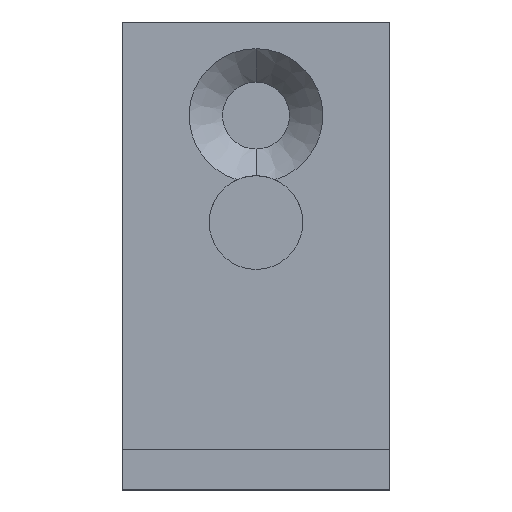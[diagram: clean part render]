
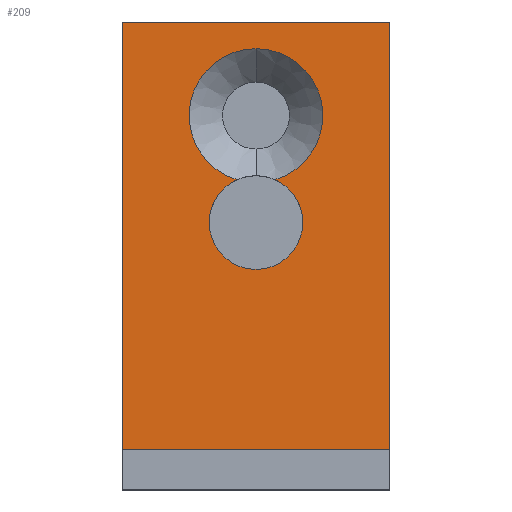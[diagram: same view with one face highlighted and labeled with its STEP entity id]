
A CAD part, front view. The second image highlights one B-rep face of the part: STEP entity #209.
In plain terms, the highlighted planar face has unit normal (0, -1, 0).
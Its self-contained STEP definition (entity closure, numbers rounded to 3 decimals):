
#179 = VERTEX_POINT( '', #495 );
#201 = EDGE_CURVE( '', #271, #239, #517, .T. );
#209 = ADVANCED_FACE( '', ( #525, #526 ), #527, .T. );
#211 = EDGE_CURVE( '', #245, #223, #529, .T. );
#221 = EDGE_CURVE( '', #259, #227, #539, .T. );
#223 = VERTEX_POINT( '', #541 );
#227 = VERTEX_POINT( '', #548 );
#239 = VERTEX_POINT( '', #561 );
#245 = VERTEX_POINT( '', #567 );
#259 = VERTEX_POINT( '', #583 );
#271 = VERTEX_POINT( '', #596 );
#343 = EDGE_CURVE( '', #223, #455, #681, .T. );
#371 = EDGE_CURVE( '', #455, #259, #710, .T. );
#379 = EDGE_CURVE( '', #413, #179, #719, .T. );
#401 = EDGE_CURVE( '', #413, #271, #746, .T. );
#405 = EDGE_CURVE( '', #227, #245, #751, .T. );
#413 = VERTEX_POINT( '', #761 );
#455 = VERTEX_POINT( '', #805 );
#457 = EDGE_CURVE( '', #179, #239, #807, .T. );
#495 = CARTESIAN_POINT( '', ( 10., -3., 3. ) );
#517 = LINE( '', #866, #867 );
#525 = FACE_BOUND( '', #879, .T. );
#526 = FACE_OUTER_BOUND( '', #880, .T. );
#527 = PLANE( '', #881 );
#529 = CIRCLE( '', #884, 5. );
#539 = CIRCLE( '', #901, 3.5 );
#541 = CARTESIAN_POINT( '', ( 0., -3., 33. ) );
#548 = CARTESIAN_POINT( '', ( -3.5, -3., 20. ) );
#561 = CARTESIAN_POINT( '', ( -10., -3., 3. ) );
#567 = CARTESIAN_POINT( '', ( -1.411, -3., 23.203 ) );
#583 = CARTESIAN_POINT( '', ( 3.5, -3., 20. ) );
#596 = CARTESIAN_POINT( '', ( -10., -3., 35. ) );
#681 = CIRCLE( '', #1074, 5. );
#710 = CIRCLE( '', #1120, 3.5 );
#719 = LINE( '', #1133, #1134 );
#746 = LINE( '', #1169, #1170 );
#751 = CIRCLE( '', #1176, 3.5 );
#761 = CARTESIAN_POINT( '', ( 10., -3., 35. ) );
#805 = CARTESIAN_POINT( '', ( 1.411, -3., 23.203 ) );
#807 = LINE( '', #1260, #1261 );
#866 = CARTESIAN_POINT( '', ( -10., -3., 35. ) );
#867 = VECTOR( '', #1302, 1. );
#879 = EDGE_LOOP( '', ( #1306, #1307, #1308, #1309, #1310 ) );
#880 = EDGE_LOOP( '', ( #1311, #1312, #1313, #1314 ) );
#881 = AXIS2_PLACEMENT_3D( '', #1315, #1316, #1317 );
#884 = AXIS2_PLACEMENT_3D( '', #1318, #1319, #1320 );
#901 = AXIS2_PLACEMENT_3D( '', #1324, #1325, #1326 );
#1074 = AXIS2_PLACEMENT_3D( '', #1511, #1512, #1513 );
#1120 = AXIS2_PLACEMENT_3D( '', #1535, #1536, #1537 );
#1133 = CARTESIAN_POINT( '', ( 10., -3., 35. ) );
#1134 = VECTOR( '', #1550, 1. );
#1169 = CARTESIAN_POINT( '', ( 10., -3., 35. ) );
#1170 = VECTOR( '', #1585, 1. );
#1176 = AXIS2_PLACEMENT_3D( '', #1594, #1595, #1596 );
#1260 = CARTESIAN_POINT( '', ( 10., -3., 3. ) );
#1261 = VECTOR( '', #1651, 1. );
#1302 = DIRECTION( '', ( 0., 0., -1. ) );
#1306 = ORIENTED_EDGE( '', *, *, #371, .T. );
#1307 = ORIENTED_EDGE( '', *, *, #221, .T. );
#1308 = ORIENTED_EDGE( '', *, *, #405, .T. );
#1309 = ORIENTED_EDGE( '', *, *, #211, .T. );
#1310 = ORIENTED_EDGE( '', *, *, #343, .T. );
#1311 = ORIENTED_EDGE( '', *, *, #201, .T. );
#1312 = ORIENTED_EDGE( '', *, *, #457, .F. );
#1313 = ORIENTED_EDGE( '', *, *, #379, .F. );
#1314 = ORIENTED_EDGE( '', *, *, #401, .T. );
#1315 = CARTESIAN_POINT( '', ( 10., -3., 35. ) );
#1316 = DIRECTION( '', ( 0., -1., 0. ) );
#1317 = DIRECTION( '', ( 0., 0., 1. ) );
#1318 = CARTESIAN_POINT( '', ( 0., -3., 28. ) );
#1319 = DIRECTION( '', ( 0., 1., 0. ) );
#1320 = DIRECTION( '', ( 0., 0., -1. ) );
#1324 = CARTESIAN_POINT( '', ( 0., -3., 20. ) );
#1325 = DIRECTION( '', ( 0., 1., 0. ) );
#1326 = DIRECTION( '', ( 1., 0., 0. ) );
#1511 = CARTESIAN_POINT( '', ( 0., -3., 28. ) );
#1512 = DIRECTION( '', ( 0., 1., 0. ) );
#1513 = DIRECTION( '', ( 0., 0., -1. ) );
#1535 = CARTESIAN_POINT( '', ( 0., -3., 20. ) );
#1536 = DIRECTION( '', ( 0., 1., 0. ) );
#1537 = DIRECTION( '', ( 1., 0., 0. ) );
#1550 = DIRECTION( '', ( 0., 0., -1. ) );
#1585 = DIRECTION( '', ( -1., 0., 0. ) );
#1594 = CARTESIAN_POINT( '', ( 0., -3., 20. ) );
#1595 = DIRECTION( '', ( 0., 1., 0. ) );
#1596 = DIRECTION( '', ( 1., 0., 0. ) );
#1651 = DIRECTION( '', ( -1., 0., 0. ) );
